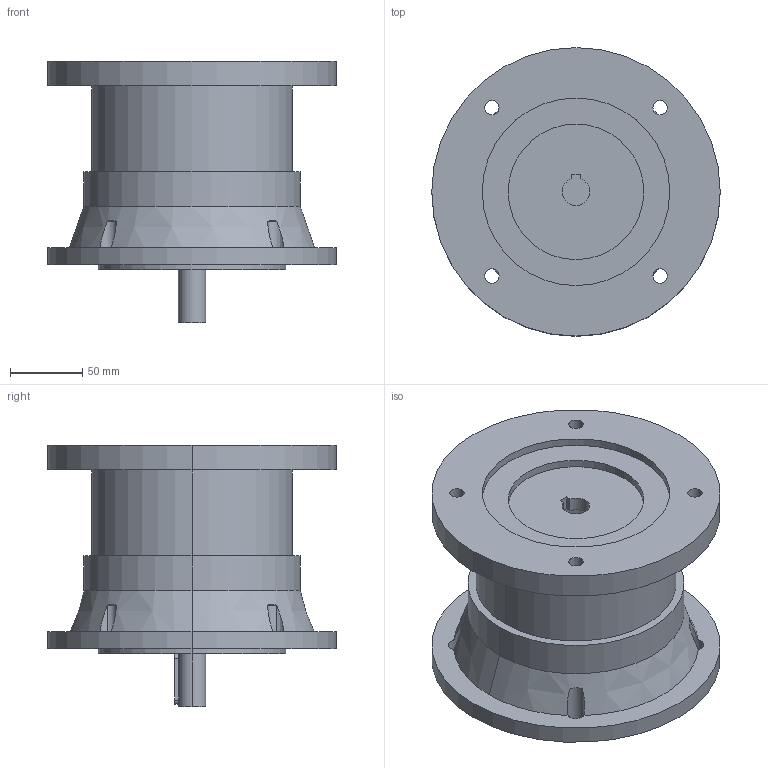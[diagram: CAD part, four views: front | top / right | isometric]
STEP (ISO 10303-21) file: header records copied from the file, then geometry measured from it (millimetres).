
FILE_DESCRIPTION (( 'STEP AP214' ), '1' );
FILE_NAME ('S-M20-K26.STEP', '2017-12-11T01:31:29', ( 'tec4' ), ( '' ), 'SwSTEP 2.0', 'SolidWorks 2015', '' );
FILE_SCHEMA (( 'AUTOMOTIVE_DESIGN' ));
Length unit declared in the file: millimetre
Products named in the file (1): S-M20-K26
Bounding box: 200 x 200 x 181 mm (x, y, z)
Volume: 2273528.6 mm3; surface area: 218410.8 mm2
Topology: 2 solids, 2 shells, 77 faces, 191 edges, 126 vertices
Faces by surface type: cylinder 48, plane 21, cone 8
Entity records: 2588 total; most frequent: CARTESIAN_POINT 598, DIRECTION 437, ORIENTED_EDGE 382, EDGE_CURVE 191, AXIS2_PLACEMENT_3D 185, VERTEX_POINT 126, CIRCLE 107, EDGE_LOOP 103
